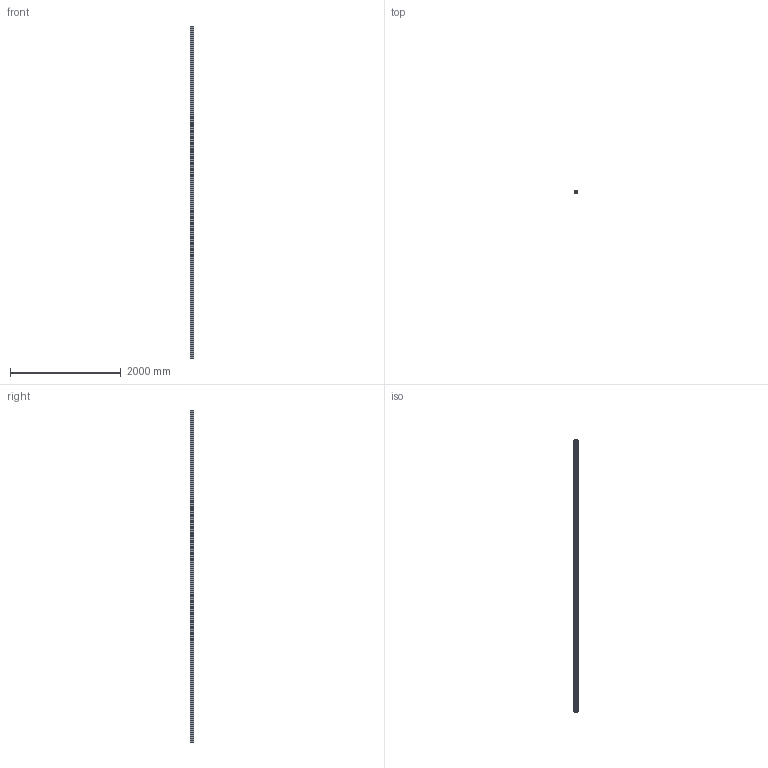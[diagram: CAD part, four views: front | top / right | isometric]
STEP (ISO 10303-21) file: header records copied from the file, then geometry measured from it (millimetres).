
FILE_DESCRIPTION (( 'STEP AP214' ), '1' );
FILE_NAME ('60x60 Slot 8 (heavy).STEP', '2017-08-07T22:38:46', ( 'Ahmed' ), ( '' ), 'SwSTEP 2.0', 'SolidWorks 2016', '' );
FILE_SCHEMA (( 'AUTOMOTIVE_DESIGN' ));
Length unit declared in the file: millimetre
Products named in the file (2): 60x60 Slot 8 (heavy)
Bounding box: 60 x 60 x 6000 mm (x, y, z)
Volume: 6947391.7 mm3; surface area: 5397685 mm2
Topology: 1 solids, 1 shells, 398 faces, 1167 edges, 778 vertices
Faces by surface type: plane 264, cylinder 108, bspline 26
Entity records: 15028 total; most frequent: CARTESIAN_POINT 4323, ORIENTED_EDGE 2334, DIRECTION 2079, EDGE_CURVE 1167, VECTOR 899, LINE 899, VERTEX_POINT 778, AXIS2_PLACEMENT_3D 590
